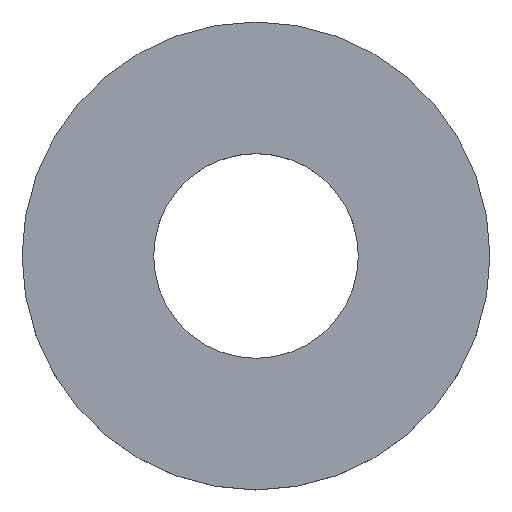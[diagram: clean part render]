
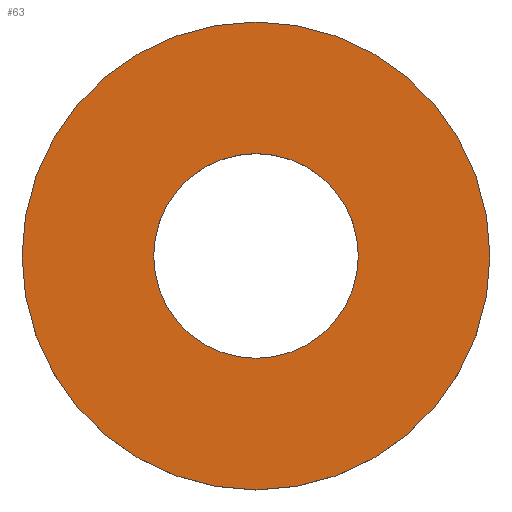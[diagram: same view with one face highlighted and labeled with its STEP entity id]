
A CAD part, top view. The second image highlights one B-rep face of the part: STEP entity #63.
In plain terms, the highlighted planar face has unit normal (0, 0, 1).
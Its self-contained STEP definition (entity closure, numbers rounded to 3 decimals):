
#15=FACE_BOUND('',#26,.T.);
#17=PLANE('',#85);
#21=FACE_OUTER_BOUND('',#25,.T.);
#25=EDGE_LOOP('',(#55));
#26=EDGE_LOOP('',(#56));
#33=CIRCLE('',#80,5.25);
#35=CIRCLE('',#83,12.);
#37=VERTEX_POINT('',#109);
#39=VERTEX_POINT('',#115);
#41=EDGE_CURVE('',#37,#37,#33,.T.);
#44=EDGE_CURVE('',#39,#39,#35,.T.);
#55=ORIENTED_EDGE('',*,*,#44,.T.);
#56=ORIENTED_EDGE('',*,*,#41,.T.);
#63=ADVANCED_FACE('',(#21,#15),#17,.T.);
#80=AXIS2_PLACEMENT_3D('',#110,#91,#92);
#83=AXIS2_PLACEMENT_3D('',#116,#98,#99);
#85=AXIS2_PLACEMENT_3D('',#120,#103,#104);
#91=DIRECTION('center_axis',(0.,0.,-1.));
#92=DIRECTION('ref_axis',(1.,0.,0.));
#98=DIRECTION('center_axis',(0.,0.,1.));
#99=DIRECTION('ref_axis',(1.,0.,0.));
#103=DIRECTION('center_axis',(0.,0.,1.));
#104=DIRECTION('ref_axis',(1.,0.,0.));
#109=CARTESIAN_POINT('',(-5.25,0.,2.));
#110=CARTESIAN_POINT('Origin',(0.,0.,2.));
#115=CARTESIAN_POINT('',(-12.,0.,2.));
#116=CARTESIAN_POINT('Origin',(0.,0.,2.));
#120=CARTESIAN_POINT('Origin',(0.,0.,2.));
